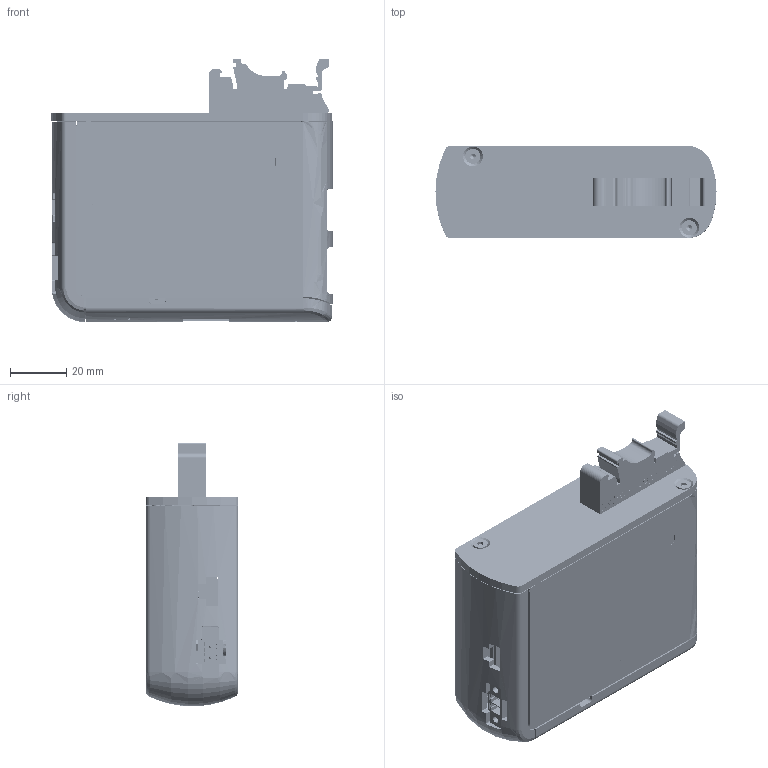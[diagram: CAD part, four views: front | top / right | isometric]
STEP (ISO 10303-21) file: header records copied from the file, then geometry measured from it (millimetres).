
FILE_DESCRIPTION (( 'STEP AP214' ), '1' );
FILE_NAME ('softMC 3_DIN mount.STEP', '2016-04-21T11:23:24', ( 'Alex.Naivelt' ), ( 'Servotronix' ), 'SwSTEP 2.0', 'SolidWorks 2009', '' );
FILE_SCHEMA (( 'AUTOMOTIVE_DESIGN' ));
Length unit declared in the file: millimetre
Products named in the file (1): softMC 3_DIN mount
Bounding box: 99.57 x 32.85 x 94.28 mm (x, y, z)
Volume: 99747.3 mm3; surface area: 104909.8 mm2
Topology: 69 solids, 70 shells, 10306 faces, 28263 edges, 18390 vertices
Faces by surface type: plane 7580, cylinder 1666, bspline 832, cone 176, torus 34, sphere 18
Entity records: 510912 total; most frequent: CARTESIAN_POINT 140125, ORIENTED_EDGE 56434, DIRECTION 47681, EDGE_CURVE 28217, LINE 22101, VECTOR 22101, VERTEX_POINT 18388, AXIS2_PLACEMENT_3D 12790
